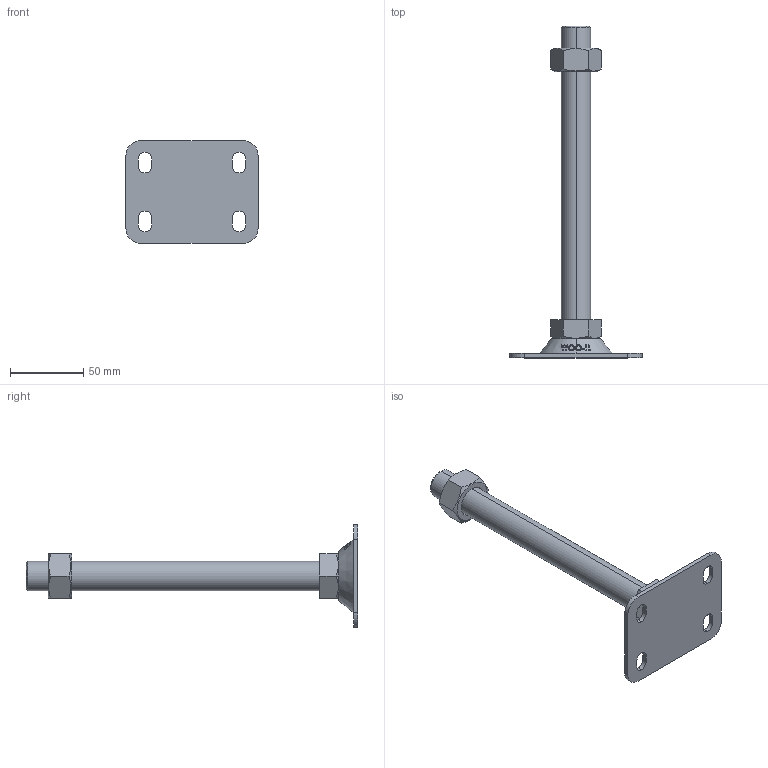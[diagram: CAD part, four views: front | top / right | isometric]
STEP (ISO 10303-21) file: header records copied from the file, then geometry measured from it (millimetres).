
FILE_DESCRIPTION (( 'STEP AP214' ), '1' );
FILE_NAME ('FABL7090-M20-200.step', '2021-03-28T23:52:48', ( '' ), ( '' ), 'SwSTEP 2.0', 'SolidWorks 2019', '' );
FILE_SCHEMA (( 'AUTOMOTIVE_DESIGN' ));
Length unit declared in the file: millimetre
Products named in the file (2): FABL7090-M20-200
Bounding box: 90 x 226 x 70 mm (x, y, z)
Volume: 111480.2 mm3; surface area: 31161.2 mm2
Topology: 2 solids, 2 shells, 146 faces, 388 edges, 256 vertices
Faces by surface type: plane 58, cylinder 48, cone 22, bspline 18
Entity records: 6128 total; most frequent: CARTESIAN_POINT 2680, ORIENTED_EDGE 776, DIRECTION 582, EDGE_CURVE 388, VERTEX_POINT 256, AXIS2_PLACEMENT_3D 210, EDGE_LOOP 166, VECTOR 162
